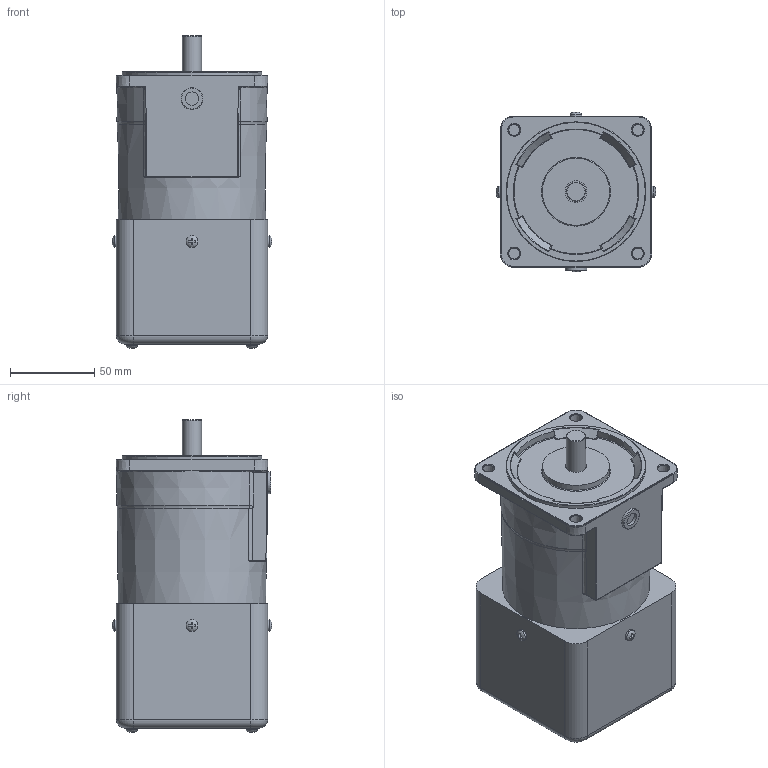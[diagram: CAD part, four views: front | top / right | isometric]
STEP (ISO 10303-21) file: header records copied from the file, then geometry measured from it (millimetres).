
FILE_DESCRIPTION (( 'STEP AP214' ), '1' );
FILE_NAME ('9TDG¤±-30F2H.STEP', '2025-01-13T08:12:25', ( '' ), ( '' ), 'SwSTEP 2.0', 'SolidWorks 2024', '' );
FILE_SCHEMA (( 'AUTOMOTIVE_DESIGN' ));
Length unit declared in the file: millimetre
Products named in the file (1): 9TDGㅁ-30F2H
Bounding box: 95.13 x 95.13 x 186.07 mm (x, y, z)
Volume: 1141290.5 mm3; surface area: 73901.1 mm2
Topology: 1 solids, 1 shells, 427 faces, 1092 edges, 697 vertices
Faces by surface type: plane 196, cylinder 134, torus 35, cone 32, bspline 28, sphere 2
Full cylindrical faces by diameter (mm): 6.5 x4, 7 x8, 8 x1, 10 x1, 11.39 x1, 13 x2, 40 x1, 83.1 x1
Entity records: 13372 total; most frequent: CARTESIAN_POINT 3540, ORIENTED_EDGE 2034, DIRECTION 1969, EDGE_CURVE 1017, AXIS2_PLACEMENT_3D 743, VERTEX_POINT 678, EDGE_LOOP 521, LINE 483
